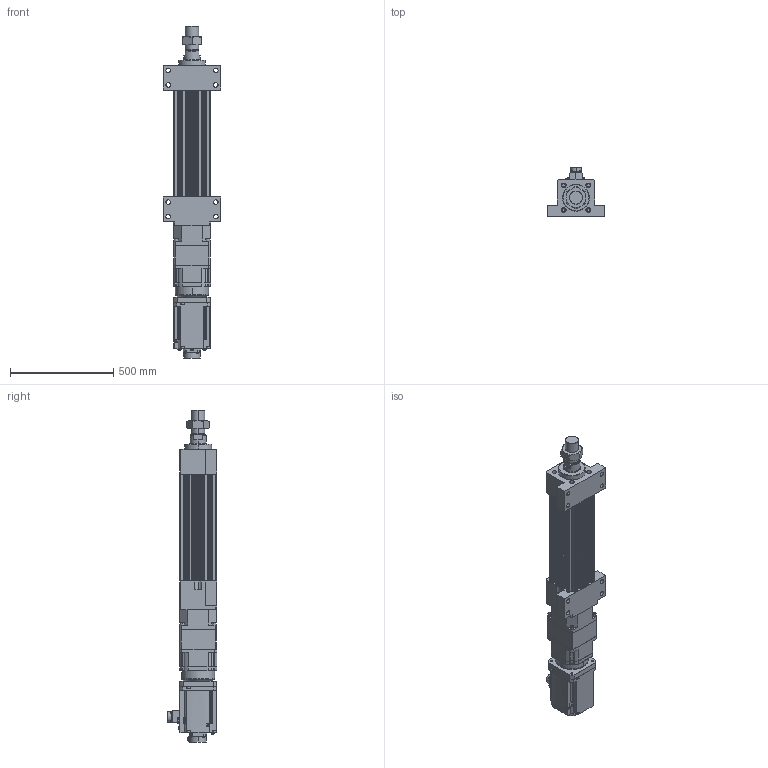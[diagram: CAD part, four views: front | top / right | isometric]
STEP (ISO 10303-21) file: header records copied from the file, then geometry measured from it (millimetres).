
FILE_DESCRIPTION (( 'STEP AP203' ), '1' );
FILE_NAME ('HES180HS-S200-W070G00-M-FFB.STEP', '2026-06-10T06:51:06', ( 'tms' ), ( '' ), 'SwSTEP 2.0', 'SolidWorks 2013', '' );
FILE_SCHEMA (( 'CONFIG_CONTROL_DESIGN' ));
Length unit declared in the file: millimetre
Products named in the file (9): HES180-M-ROD-200; HES180-S-G180; AB1801; AB1803; HG-SR702B; M64X2.0P; HES180HS-S200-W070G00-M-FFB; AB1802; HES180-FFB-200
Assembly tree (8 placements, depth 2):
  HES180HS-S200-W070G00-M-FFB
    HES180-FFB-200
    HES180-M-ROD-200
    M64X2.0P
    HES180-S-G180
    AB1801
    AB1802
    AB1803
    HG-SR702B
Bounding box: 280 x 239.1 x 1605.74 mm (x, y, z)
Volume: 25773556 mm3; surface area: 2233416.9 mm2
Topology: 5 solids, 20 shells, 1552 faces, 4023 edges, 2624 vertices
Faces by surface type: cylinder 704, plane 639, cone 142, bspline 63, torus 4
Entity records: 56368 total; most frequent: CARTESIAN_POINT 16636, DIRECTION 8361, ORIENTED_EDGE 7970, EDGE_CURVE 4009, AXIS2_PLACEMENT_3D 3129, VERTEX_POINT 2624, VECTOR 2103, LINE 2103
